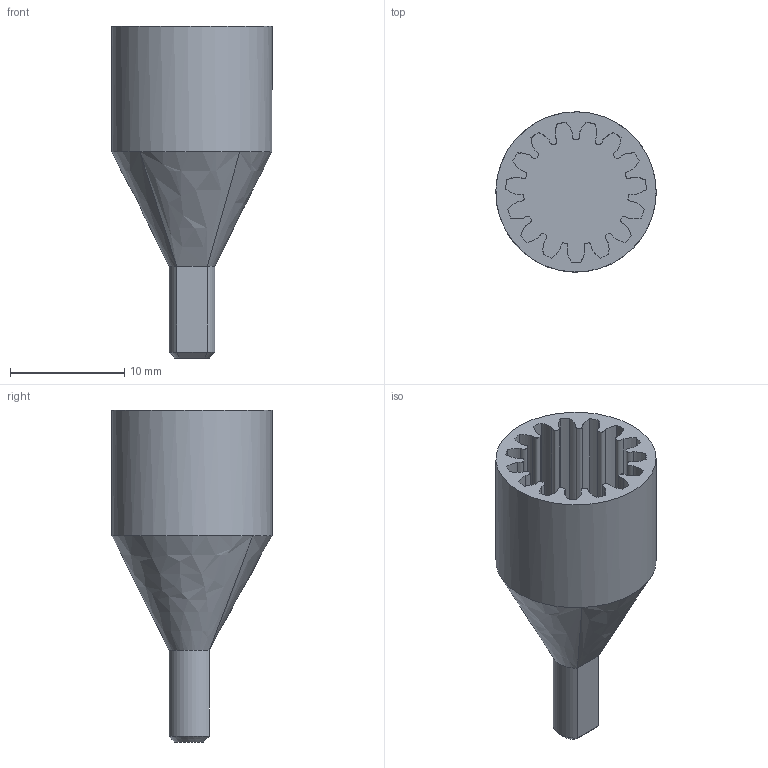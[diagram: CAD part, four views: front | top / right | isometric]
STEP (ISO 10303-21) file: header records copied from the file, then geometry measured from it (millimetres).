
FILE_DESCRIPTION(/* description */ (''),/* implementation_level */ '2;1');
FILE_NAME(/* name */ 'C:\Users\Diego\Downloads\9\Animalitos\Union.stp',/* time_stamp */ '2019-07-10T16:16:08-04:00',/* author */ ('Diego'),/* organization */ (''),/* preprocessor_version */ 'ST-DEVELOPER v16.5',/* originating_system */ 'Autodesk Inventor 2017',/* authorisation */ '');
FILE_SCHEMA (('AUTOMOTIVE_DESIGN { 1 0 10303 214 3 1 1 }'));
Length unit declared in the file: millimetre
Products named in the file (1): Union
Bounding box: 14 x 13.99 x 29 mm (x, y, z)
Volume: 1480.5 mm3; surface area: 1820.5 mm2
Topology: 1 solids, 1 shells, 70 faces, 198 edges, 131 vertices
Faces by surface type: bspline 47, cylinder 17, plane 5, cone 1
Full cylindrical faces by diameter (mm): 14 x1
Entity records: 12501 total; most frequent: CARTESIAN_POINT 10945, ORIENTED_EDGE 390, EDGE_CURVE 195, DIRECTION 189, VERTEX_POINT 129, B_SPLINE_CURVE_WITH_KNOTS 92, EDGE_LOOP 72, FACE_OUTER_BOUND 70
